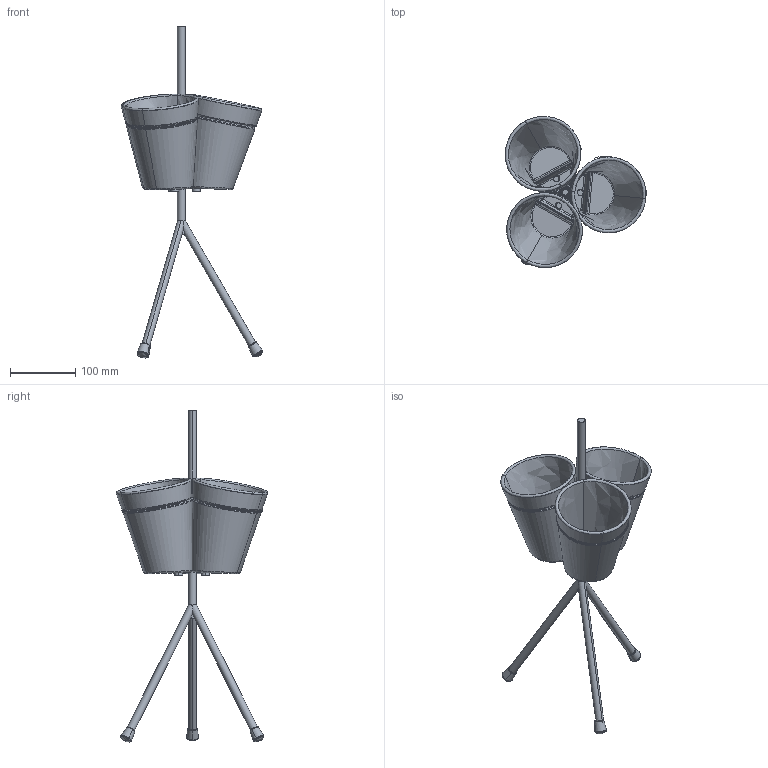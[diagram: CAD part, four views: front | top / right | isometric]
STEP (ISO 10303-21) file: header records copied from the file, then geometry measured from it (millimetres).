
FILE_DESCRIPTION(/* description */ (''),/* implementation_level */ '2;1');
FILE_NAME(/* name */ 'Window garden_table',/* time_stamp */ '2025-07-17T11:53:09+02:00',/* author */ (''),/* organization */ (''),/* preprocessor_version */ 'ST-DEVELOPER v16.5',/* originating_system */ 'Rhino 7.37',/* authorisation */ '');
FILE_SCHEMA (('AUTOMOTIVE_DESIGN'));
Length unit declared in the file: millimetre
Products named in the file (1): Document
Bounding box: 216.21 x 230.95 x 507.27 mm (x, y, z)
Volume: 702097.7 mm3; surface area: 337991.7 mm2
Topology: 14 solids, 20 shells, 391 faces, 960 edges, 580 vertices
Faces by surface type: bspline 228, cylinder 84, plane 79
Entity records: 27017 total; most frequent: CARTESIAN_POINT 21224, ORIENTED_EDGE 1860, EDGE_CURVE 942, VERTEX_POINT 580, B_SPLINE_CURVE_WITH_KNOTS 451, EDGE_LOOP 416, ADVANCED_FACE 391, FACE_OUTER_BOUND 391
